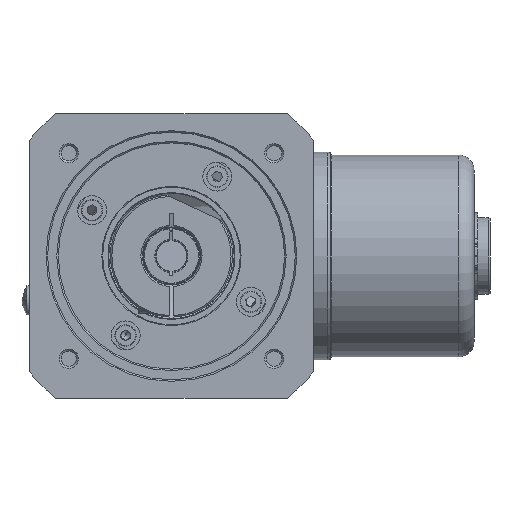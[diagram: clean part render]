
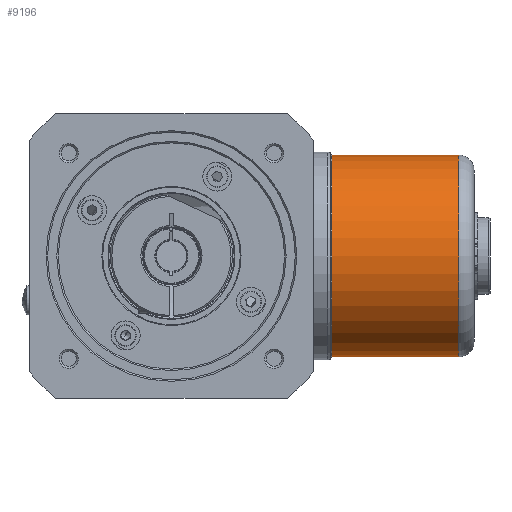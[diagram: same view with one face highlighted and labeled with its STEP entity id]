
A CAD part, front view. The second image highlights one B-rep face of the part: STEP entity #9196.
In plain terms, the highlighted cylindrical face has radius 33 mm (diameter 66 mm), a partial arc.
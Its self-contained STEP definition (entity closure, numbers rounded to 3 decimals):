
#4515 = CARTESIAN_POINT ( 'NONE',  ( 52., 0., 0. ) ) ;
#5142 = CARTESIAN_POINT ( 'NONE',  ( 52.5, 0., 33. ) ) ;
#6628 = ORIENTED_EDGE ( 'NONE', *, *, #18790, .F. ) ;
#7861 = DIRECTION ( 'NONE',  ( 0., 0., -1. ) ) ;
#8859 = VERTEX_POINT ( 'NONE', #30456 ) ;
#9196 = ADVANCED_FACE ( 'NONE', ( #24795 ), #20845, .T. ) ;
#9248 = DIRECTION ( 'NONE',  ( 1., 0., 0. ) ) ;
#10111 = CARTESIAN_POINT ( 'NONE',  ( 52.5, 0., 0. ) ) ;
#10521 = VERTEX_POINT ( 'NONE', #35145 ) ;
#11088 = DIRECTION ( 'NONE',  ( -1., 0., 0. ) ) ;
#11507 = AXIS2_PLACEMENT_3D ( 'NONE', #28009, #11088, #16933 ) ;
#15087 = EDGE_CURVE ( 'NONE', #17952, #20272, #17277, .T. ) ;
#16933 = DIRECTION ( 'NONE',  ( 0., 0., -1. ) ) ;
#17177 = EDGE_LOOP ( 'NONE', ( #6628, #40084, #31205, #24601 ) ) ;
#17277 = CIRCLE ( 'NONE', #32211, 33. ) ;
#17822 = EDGE_CURVE ( 'NONE', #20272, #8859, #20604, .T. ) ;
#17952 = VERTEX_POINT ( 'NONE', #5142 ) ;
#18641 = CARTESIAN_POINT ( 'NONE',  ( 52., 0., 33. ) ) ;
#18790 = EDGE_CURVE ( 'NONE', #17952, #10521, #25936, .T. ) ;
#20272 = VERTEX_POINT ( 'NONE', #34601 ) ;
#20604 = LINE ( 'NONE', #26586, #41061 ) ;
#20845 = CYLINDRICAL_SURFACE ( 'NONE', #36706, 33. ) ;
#22038 = EDGE_CURVE ( 'NONE', #8859, #10521, #25022, .T. ) ;
#24063 = VECTOR ( 'NONE', #29498, 1000. ) ;
#24601 = ORIENTED_EDGE ( 'NONE', *, *, #22038, .T. ) ;
#24795 = FACE_OUTER_BOUND ( 'NONE', #17177, .T. ) ;
#25003 = DIRECTION ( 'NONE',  ( 1., 0., 0. ) ) ;
#25022 = CIRCLE ( 'NONE', #11507, 33. ) ;
#25936 = LINE ( 'NONE', #18641, #24063 ) ;
#26586 = CARTESIAN_POINT ( 'NONE',  ( 52., 0., -33. ) ) ;
#28009 = CARTESIAN_POINT ( 'NONE',  ( 94., 0., 0. ) ) ;
#29498 = DIRECTION ( 'NONE',  ( 1., 0., 0. ) ) ;
#30456 = CARTESIAN_POINT ( 'NONE',  ( 94., 0., -33. ) ) ;
#31205 = ORIENTED_EDGE ( 'NONE', *, *, #17822, .T. ) ;
#32211 = AXIS2_PLACEMENT_3D ( 'NONE', #10111, #9248, #43585 ) ;
#34132 = DIRECTION ( 'NONE',  ( 1., 0., 0. ) ) ;
#34601 = CARTESIAN_POINT ( 'NONE',  ( 52.5, 0., -33. ) ) ;
#35145 = CARTESIAN_POINT ( 'NONE',  ( 94., 0., 33. ) ) ;
#36706 = AXIS2_PLACEMENT_3D ( 'NONE', #4515, #25003, #7861 ) ;
#40084 = ORIENTED_EDGE ( 'NONE', *, *, #15087, .T. ) ;
#41061 = VECTOR ( 'NONE', #34132, 1000. ) ;
#43585 = DIRECTION ( 'NONE',  ( 0., 0., -1. ) ) ;
